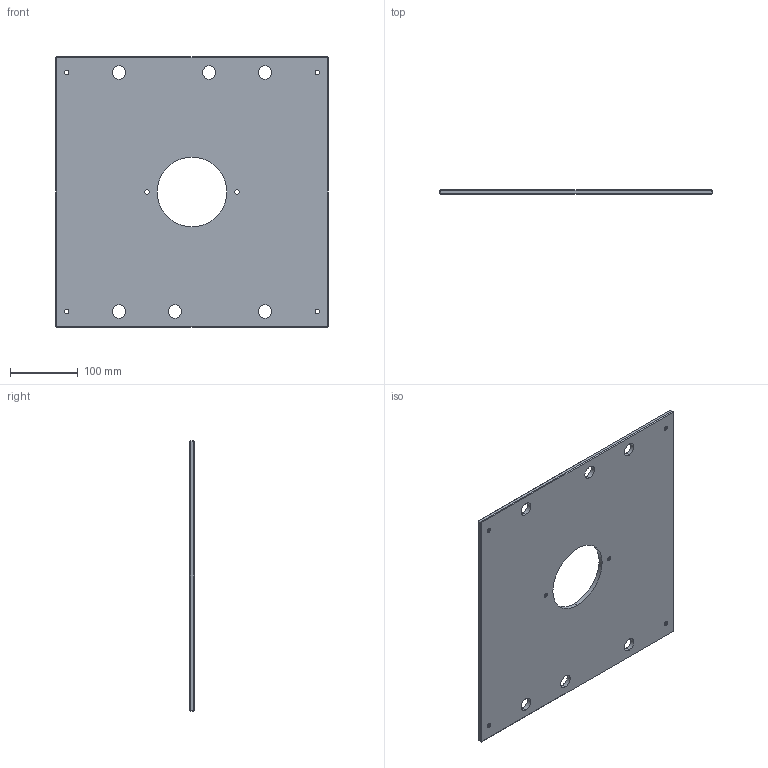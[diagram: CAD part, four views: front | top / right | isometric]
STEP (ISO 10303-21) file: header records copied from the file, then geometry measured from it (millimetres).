
FILE_DESCRIPTION (( 'STEP AP214' ), '1' );
FILE_NAME ('ME-0619-CH-1616-B.STEP', '2020-02-11T16:32:41', ( '' ), ( '' ), 'SwSTEP 2.0', 'SolidWorks 2018', '' );
FILE_SCHEMA (( 'AUTOMOTIVE_DESIGN' ));
Length unit declared in the file: inch
Products named in the file (1): ME-0619-CH-1616-B
Bounding box: 403.23 x 6.35 x 400.05 mm (x, y, z)
Volume: 954112.9 mm3; surface area: 314642.6 mm2
Topology: 1 solids, 1 shells, 64 faces, 150 edges, 88 vertices
Faces by surface type: cylinder 26, plane 26, cone 12
Entity records: 1902 total; most frequent: DIRECTION 344, CARTESIAN_POINT 303, ORIENTED_EDGE 300, EDGE_CURVE 150, AXIS2_PLACEMENT_3D 129, EDGE_LOOP 90, VERTEX_POINT 88, VECTOR 86
